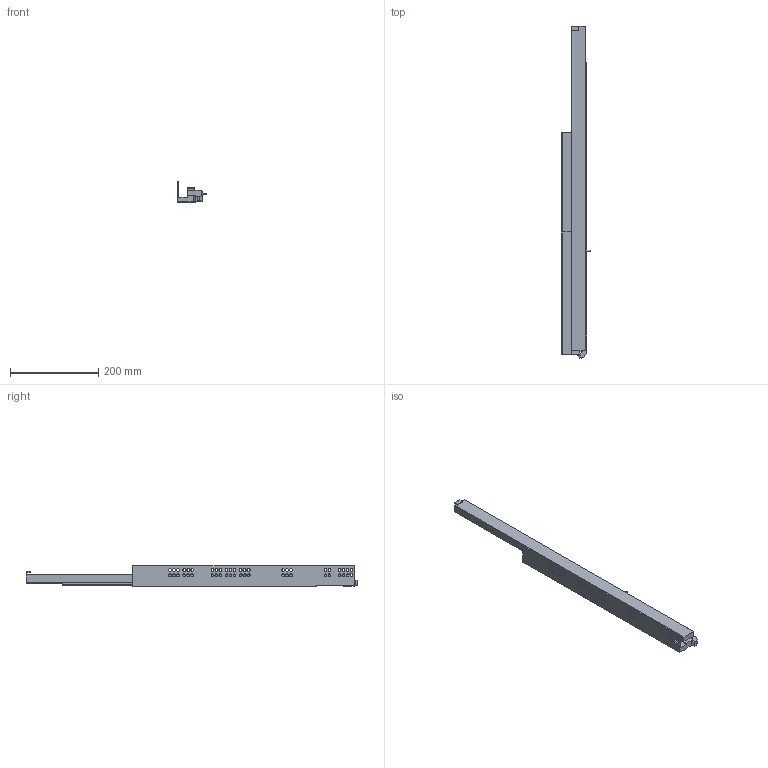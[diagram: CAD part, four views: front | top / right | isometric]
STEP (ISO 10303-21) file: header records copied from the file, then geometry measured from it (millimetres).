
FILE_DESCRIPTION (( 'STEP AP214' ), '1' );
FILE_NAME ('IMOS_Dynapro_Tipmatic_D51_NL_0_LI.STEP', '2013-03-22T11:53:32', ( 'Grass GmbH' ), ( 'Grass GmbH' ), 'SwSTEP 2.0', 'SolidWorks 2012', '' );
FILE_SCHEMA (( 'AUTOMOTIVE_DESIGN' ));
Length unit declared in the file: millimetre
Products named in the file (1): IMOS_Dynapro_Tipmatic_D51_NL_0_LI
Bounding box: 65.92 x 751.55 x 48.48 mm (x, y, z)
Volume: 676102.6 mm3; surface area: 166535.4 mm2
Topology: 1 solids, 1 shells, 198 faces, 573 edges, 382 vertices
Faces by surface type: cylinder 101, plane 97
Entity records: 6801 total; most frequent: DIRECTION 1173, CARTESIAN_POINT 1154, ORIENTED_EDGE 1146, EDGE_CURVE 573, AXIS2_PLACEMENT_3D 401, VERTEX_POINT 382, VECTOR 371, LINE 371
